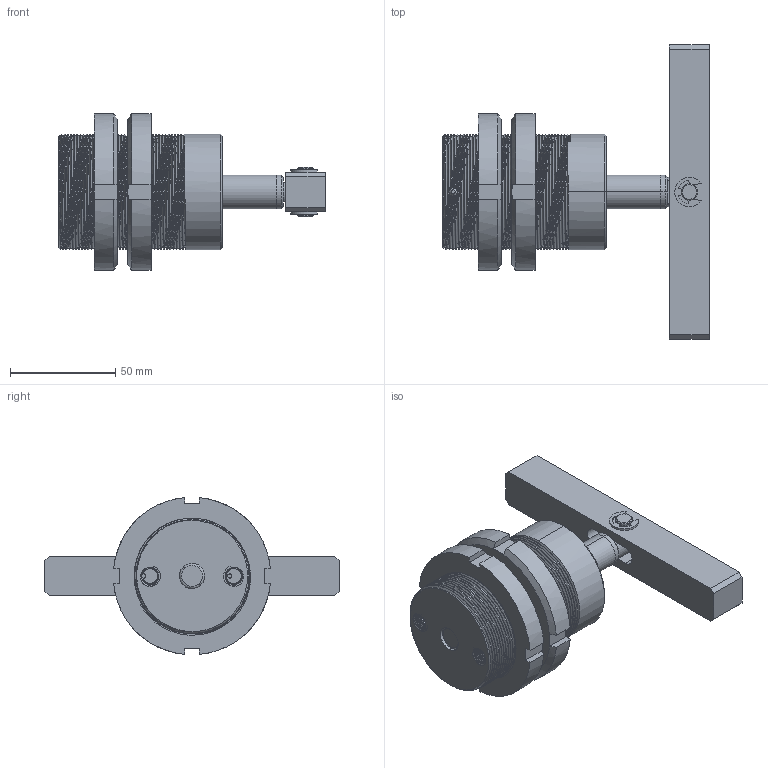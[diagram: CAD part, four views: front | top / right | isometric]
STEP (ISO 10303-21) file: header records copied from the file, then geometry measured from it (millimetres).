
FILE_DESCRIPTION (( 'STEP AP203' ), '1' );
FILE_NAME ('ASC-TB40D.STEP', '2013-09-21T07:04:21', ( '微软用户' ), ( '微软中国' ), 'SwSTEP 2.0', 'SolidWorks 2012', '' );
FILE_SCHEMA (( 'CONFIG_CONTROL_DESIGN' ));
Products named in the file (10): ASC-TB40D; XDIAO; KKDC; ASC-FA40DHSG; 揤旋; CXIAO; CAS-TB40LM; CAS-FA40QG; CAS-TB40SG; CAS-TB40BT
Assembly tree (11 placements, depth 2):
  ASC-TB40D
    CAS-TB40BT
    CAS-TB40SG
    CAS-FA40QG
    CAS-TB40LM  x2
    CXIAO
    揤旋
    ASC-FA40DHSG
    KKDC  x2
    XDIAO
Bounding box: 127 x 140 x 74.67 mm (x, y, z)
Volume: 240171 mm3; surface area: 97032.5 mm2
Topology: 11 solids, 11 shells, 526 faces, 1844 edges, 1333 vertices
Faces by surface type: cylinder 297, bspline 108, plane 88, cone 33
Entity records: 73524 total; most frequent: CARTESIAN_POINT 60330, ORIENTED_EDGE 3276, EDGE_CURVE 1638, DIRECTION 1491, VERTEX_POINT 1197, B_SPLINE_CURVE_WITH_KNOTS 1063, AXIS2_PLACEMENT_3D 549, EDGE_LOOP 501
